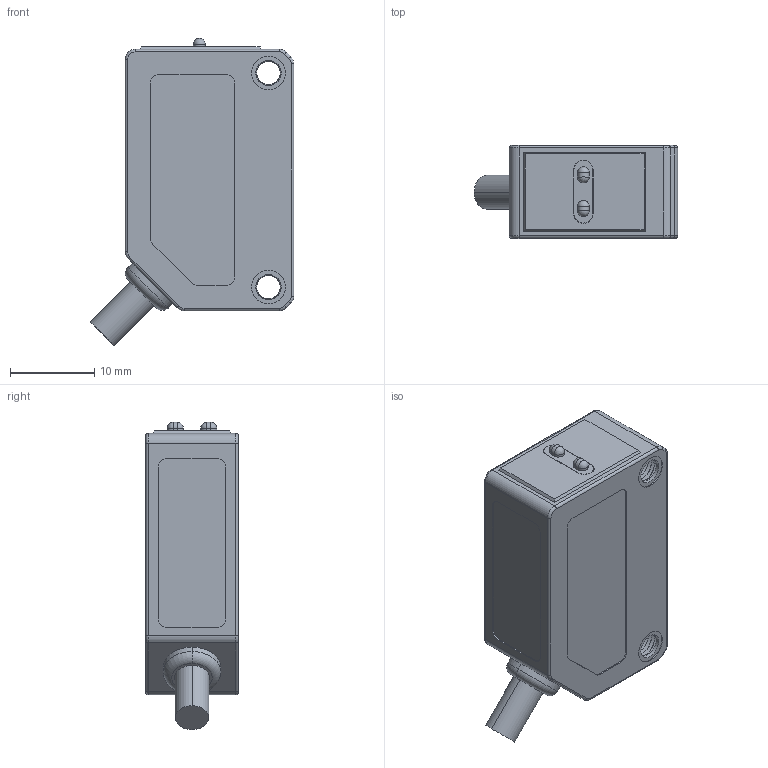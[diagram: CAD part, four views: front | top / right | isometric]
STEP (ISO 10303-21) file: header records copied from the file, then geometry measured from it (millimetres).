
FILE_DESCRIPTION((''),'2;1');
FILE_NAME('_PTV-TM20_ASM','2020-08-07T',('Gavin'),(''),'PRO/ENGINEER BY PARAMETRIC TECHNOLOGY CORPORATION, 2009440','PRO/ENGINEER BY PARAMETRIC TECHNOLOGY CORPORATION, 2009440','');
FILE_SCHEMA(('CONFIG_CONTROL_DESIGN'));
Length unit declared in the file: millimetre
Products named in the file (18): PTV_203; CABLE_4; COVER_22; PCB_71; MIDDLE_COVER_31_205; ASM0001000000_ASM_1_ASM_3_ASM_ASM; ASM0001000000_ASM_ASM_1_ASM_ASM; RECEIVER_LENS_1_9; BDK_ASM_5_ASM_ASM; LENS_24; LIGHT_PIPE_40; SFH_4240_20180327_GEOMETRY_2; MANIFOLD_SOLID_BREP_35291; MANIFOLD_SOLID_BREP_35441; LEDX2_4_ASM_ASM; 0000-ESB-3D_ASM_610_ASM_ASM; 0000-ESB-3D_ASM_ASM_ASM; _PTV-TM20_ASM
Assembly tree (17 placements, depth 7):
  _PTV-TM20_ASM
    0000-ESB-3D_ASM_ASM_ASM
      0000-ESB-3D_ASM_610_ASM_ASM
        PTV_203
        CABLE_4
        COVER_22
        PCB_71
        BDK_ASM_5_ASM_ASM
          ASM0001000000_ASM_ASM_1_ASM_ASM
            ASM0001000000_ASM_1_ASM_3_ASM_ASM
              MIDDLE_COVER_31_205
          RECEIVER_LENS_1_9
        LENS_24
        LIGHT_PIPE_40
        SFH_4240_20180327_GEOMETRY_2
        LEDX2_4_ASM_ASM
          MANIFOLD_SOLID_BREP_35291
          MANIFOLD_SOLID_BREP_35441
Bounding box: 24.14 x 11 x 36.44 mm (x, y, z)
Volume: 3723.4 mm3; surface area: 7771.3 mm2
Topology: 11 solids, 13 shells, 690 faces, 1822 edges, 1178 vertices
Faces by surface type: plane 363, cylinder 237, cone 38, bspline 32, torus 16, sphere 4
Entity records: 27887 total; most frequent: CARTESIAN_POINT 10602, ORIENTED_EDGE 3632, DIRECTION 3374, EDGE_CURVE 1816, VECTOR 1178, LINE 1178, VERTEX_POINT 1178, AXIS2_PLACEMENT_3D 1098
